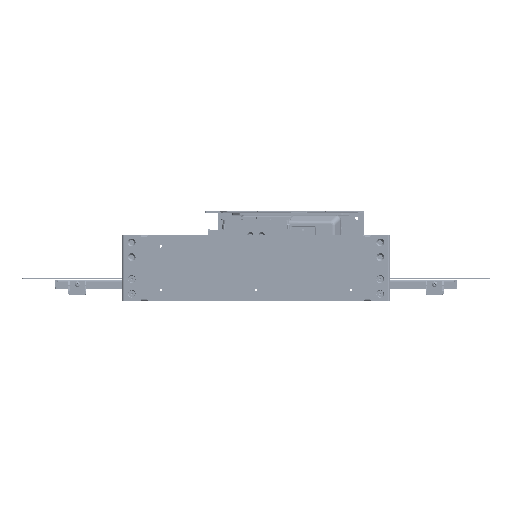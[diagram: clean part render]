
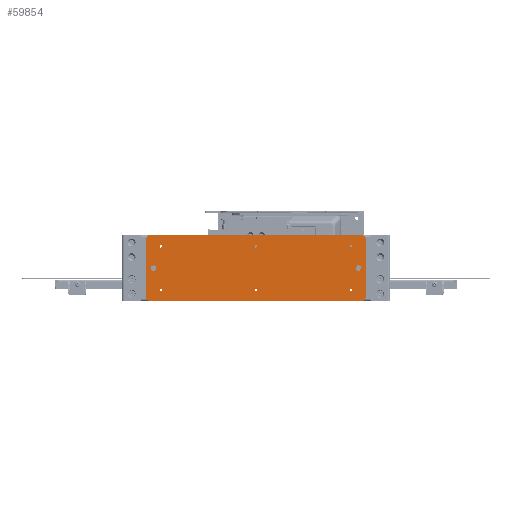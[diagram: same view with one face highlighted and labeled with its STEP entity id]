
A CAD part, top view. The second image highlights one B-rep face of the part: STEP entity #59854.
In plain terms, the highlighted planar face has unit normal (0, 0, 1) as drawn and (0, 0, -1) by its records, which use the part's own axes.
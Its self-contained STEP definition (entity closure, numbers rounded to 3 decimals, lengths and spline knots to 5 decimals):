
#5700=LINE('',#96701,#11055);
#5704=LINE('',#96710,#11059);
#5708=LINE('',#96719,#11063);
#5714=LINE('',#96743,#11069);
#11055=VECTOR('',#78560,1.);
#11059=VECTOR('',#78566,1.);
#11063=VECTOR('',#78572,1.);
#11069=VECTOR('',#78592,1.);
#21194=ORIENTED_EDGE('',*,*,#34528,.T.);
#21195=ORIENTED_EDGE('',*,*,#34529,.T.);
#21196=ORIENTED_EDGE('',*,*,#34530,.T.);
#21197=ORIENTED_EDGE('',*,*,#34531,.T.);
#21198=ORIENTED_EDGE('',*,*,#34532,.T.);
#21199=ORIENTED_EDGE('',*,*,#34533,.T.);
#21200=ORIENTED_EDGE('',*,*,#34511,.T.);
#21201=ORIENTED_EDGE('',*,*,#34513,.T.);
#21202=ORIENTED_EDGE('',*,*,#34516,.F.);
#21203=ORIENTED_EDGE('',*,*,#34534,.T.);
#21204=ORIENTED_EDGE('',*,*,#34506,.F.);
#21205=ORIENTED_EDGE('',*,*,#34535,.T.);
#21206=ORIENTED_EDGE('',*,*,#34502,.T.);
#21207=ORIENTED_EDGE('',*,*,#34536,.T.);
#21208=ORIENTED_EDGE('',*,*,#34498,.T.);
#21209=ORIENTED_EDGE('',*,*,#34537,.T.);
#34498=EDGE_CURVE('',#41801,#41802,#5700,.T.);
#34502=EDGE_CURVE('',#41805,#41806,#5704,.T.);
#34506=EDGE_CURVE('',#41809,#41810,#5708,.T.);
#34511=EDGE_CURVE('',#41814,#41814,#46152,.F.);
#34513=EDGE_CURVE('',#41816,#41816,#46154,.F.);
#34516=EDGE_CURVE('',#41819,#41820,#5714,.T.);
#34528=EDGE_CURVE('',#41827,#41827,#46165,.F.);
#34529=EDGE_CURVE('',#41828,#41828,#46166,.F.);
#34530=EDGE_CURVE('',#41829,#41829,#46167,.F.);
#34531=EDGE_CURVE('',#41830,#41830,#46168,.F.);
#34532=EDGE_CURVE('',#41831,#41831,#46169,.F.);
#34533=EDGE_CURVE('',#41832,#41832,#46170,.F.);
#34534=EDGE_CURVE('',#41819,#41810,#46171,.T.);
#34535=EDGE_CURVE('',#41809,#41805,#46172,.T.);
#34536=EDGE_CURVE('',#41806,#41801,#46173,.T.);
#34537=EDGE_CURVE('',#41802,#41820,#46174,.T.);
#41801=VERTEX_POINT('',#96702);
#41802=VERTEX_POINT('',#96703);
#41805=VERTEX_POINT('',#96711);
#41806=VERTEX_POINT('',#96712);
#41809=VERTEX_POINT('',#96720);
#41810=VERTEX_POINT('',#96721);
#41814=VERTEX_POINT('',#96731);
#41816=VERTEX_POINT('',#96736);
#41819=VERTEX_POINT('',#96742);
#41820=VERTEX_POINT('',#96744);
#41827=VERTEX_POINT('',#96765);
#41828=VERTEX_POINT('',#96767);
#41829=VERTEX_POINT('',#96769);
#41830=VERTEX_POINT('',#96771);
#41831=VERTEX_POINT('',#96773);
#41832=VERTEX_POINT('',#96775);
#46152=CIRCLE('',#67560,0.00396);
#46154=CIRCLE('',#67563,0.00396);
#46165=CIRCLE('',#67577,0.00246);
#46166=CIRCLE('',#67578,0.00246);
#46167=CIRCLE('',#67579,0.00246);
#46168=CIRCLE('',#67580,0.00246);
#46169=CIRCLE('',#67581,0.00246);
#46170=CIRCLE('',#67582,0.00246);
#46171=CIRCLE('',#67583,0.00635);
#46172=CIRCLE('',#67584,0.00635);
#46173=CIRCLE('',#67585,0.00635);
#46174=CIRCLE('',#67586,0.00635);
#49549=EDGE_LOOP('',(#21194));
#49550=EDGE_LOOP('',(#21195));
#49551=EDGE_LOOP('',(#21196));
#49552=EDGE_LOOP('',(#21197));
#49553=EDGE_LOOP('',(#21198));
#49554=EDGE_LOOP('',(#21199));
#49555=EDGE_LOOP('',(#21200));
#49556=EDGE_LOOP('',(#21201));
#49557=EDGE_LOOP('',(#21202,#21203,#21204,#21205,#21206,#21207,#21208,#21209));
#54056=FACE_BOUND('',#49549,.T.);
#54057=FACE_BOUND('',#49550,.T.);
#54058=FACE_BOUND('',#49551,.T.);
#54059=FACE_BOUND('',#49552,.T.);
#54060=FACE_BOUND('',#49553,.T.);
#54061=FACE_BOUND('',#49554,.T.);
#54062=FACE_BOUND('',#49555,.T.);
#54063=FACE_BOUND('',#49556,.T.);
#54064=FACE_BOUND('',#49557,.T.);
#57346=PLANE('',#67576);
#59854=ADVANCED_FACE('',(#54056,#54057,#54058,#54059,#54060,#54061,#54062,
#54063,#54064),#57346,.T.);
#67560=AXIS2_PLACEMENT_3D('',#96730,#78580,#78581);
#67563=AXIS2_PLACEMENT_3D('',#96735,#78586,#78587);
#67576=AXIS2_PLACEMENT_3D('',#96763,#78616,#78617);
#67577=AXIS2_PLACEMENT_3D('',#96764,#78618,#78619);
#67578=AXIS2_PLACEMENT_3D('',#96766,#78620,#78621);
#67579=AXIS2_PLACEMENT_3D('',#96768,#78622,#78623);
#67580=AXIS2_PLACEMENT_3D('',#96770,#78624,#78625);
#67581=AXIS2_PLACEMENT_3D('',#96772,#78626,#78627);
#67582=AXIS2_PLACEMENT_3D('',#96774,#78628,#78629);
#67583=AXIS2_PLACEMENT_3D('',#96776,#78630,#78631);
#67584=AXIS2_PLACEMENT_3D('',#96777,#78632,#78633);
#67585=AXIS2_PLACEMENT_3D('',#96778,#78634,#78635);
#67586=AXIS2_PLACEMENT_3D('',#96779,#78636,#78637);
#78560=DIRECTION('',(-1.,0.,0.));
#78566=DIRECTION('',(0.,-1.,0.));
#78572=DIRECTION('',(-1.,0.,0.));
#78580=DIRECTION('',(0.,0.,-1.));
#78581=DIRECTION('',(-1.,0.,0.));
#78586=DIRECTION('',(0.,0.,-1.));
#78587=DIRECTION('',(-1.,0.,0.));
#78592=DIRECTION('',(0.,-1.,0.));
#78616=DIRECTION('',(0.,0.,-1.));
#78617=DIRECTION('',(1.,0.,0.));
#78618=DIRECTION('',(0.,0.,-1.));
#78619=DIRECTION('',(-1.,0.,0.));
#78620=DIRECTION('',(0.,0.,-1.));
#78621=DIRECTION('',(-1.,0.,0.));
#78622=DIRECTION('',(0.,0.,-1.));
#78623=DIRECTION('',(-1.,0.,0.));
#78624=DIRECTION('',(0.,0.,-1.));
#78625=DIRECTION('',(-1.,0.,0.));
#78626=DIRECTION('',(0.,0.,-1.));
#78627=DIRECTION('',(-1.,0.,0.));
#78628=DIRECTION('',(0.,0.,-1.));
#78629=DIRECTION('',(-1.,0.,0.));
#78630=DIRECTION('',(0.,0.,-1.));
#78631=DIRECTION('',(-1.,0.,0.));
#78632=DIRECTION('',(0.,0.,-1.));
#78633=DIRECTION('',(-1.,0.,0.));
#78634=DIRECTION('',(0.,0.,-1.));
#78635=DIRECTION('',(-1.,0.,0.));
#78636=DIRECTION('',(0.,0.,-1.));
#78637=DIRECTION('',(-1.,0.,0.));
#96701=CARTESIAN_POINT('',(0.,-0.05715,-0.00229));
#96702=CARTESIAN_POINT('',(0.18415,-0.05715,-0.00229));
#96703=CARTESIAN_POINT('',(-0.18415,-0.05715,-0.00229));
#96710=CARTESIAN_POINT('',(0.1905,0.,-0.00229));
#96711=CARTESIAN_POINT('',(0.1905,0.0508,-0.00229));
#96712=CARTESIAN_POINT('',(0.1905,-0.0508,-0.00229));
#96719=CARTESIAN_POINT('',(0.,0.05715,-0.00229));
#96720=CARTESIAN_POINT('',(0.18415,0.05715,-0.00229));
#96721=CARTESIAN_POINT('',(-0.18415,0.05715,-0.00229));
#96730=CARTESIAN_POINT('',(-0.1778,0.,-0.00229));
#96731=CARTESIAN_POINT('',(-0.18176,0.,-0.00229));
#96735=CARTESIAN_POINT('',(0.1778,0.,-0.00229));
#96736=CARTESIAN_POINT('',(0.17384,0.,-0.00229));
#96742=CARTESIAN_POINT('',(-0.1905,0.0508,-0.00229));
#96743=CARTESIAN_POINT('',(-0.1905,0.,-0.00229));
#96744=CARTESIAN_POINT('',(-0.1905,-0.0508,-0.00229));
#96763=CARTESIAN_POINT('',(0.,0.,-0.00229));
#96764=CARTESIAN_POINT('',(-0.1651,0.0381,-0.00229));
#96765=CARTESIAN_POINT('',(-0.16756,0.0381,-0.00229));
#96766=CARTESIAN_POINT('',(0.,0.0381,-0.00229));
#96767=CARTESIAN_POINT('',(-0.00246,0.0381,-0.00229));
#96768=CARTESIAN_POINT('',(0.1651,0.0381,-0.00229));
#96769=CARTESIAN_POINT('',(0.16264,0.0381,-0.00229));
#96770=CARTESIAN_POINT('',(0.1651,-0.0381,-0.00229));
#96771=CARTESIAN_POINT('',(0.16264,-0.0381,-0.00229));
#96772=CARTESIAN_POINT('',(0.,-0.0381,-0.00229));
#96773=CARTESIAN_POINT('',(-0.00246,-0.0381,-0.00229));
#96774=CARTESIAN_POINT('',(-0.1651,-0.0381,-0.00229));
#96775=CARTESIAN_POINT('',(-0.16756,-0.0381,-0.00229));
#96776=CARTESIAN_POINT('',(-0.18415,0.0508,-0.00229));
#96777=CARTESIAN_POINT('',(0.18415,0.0508,-0.00229));
#96778=CARTESIAN_POINT('',(0.18415,-0.0508,-0.00229));
#96779=CARTESIAN_POINT('',(-0.18415,-0.0508,-0.00229));
